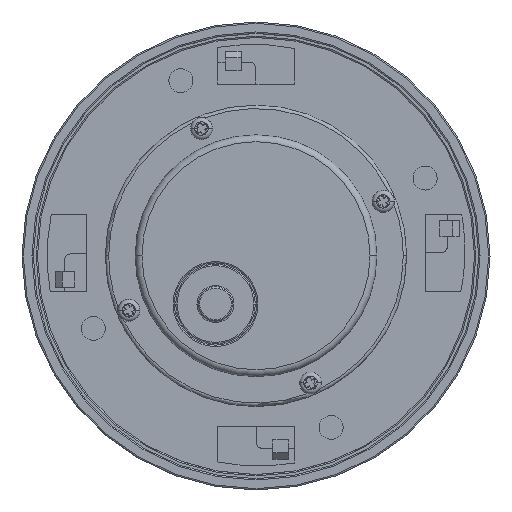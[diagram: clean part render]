
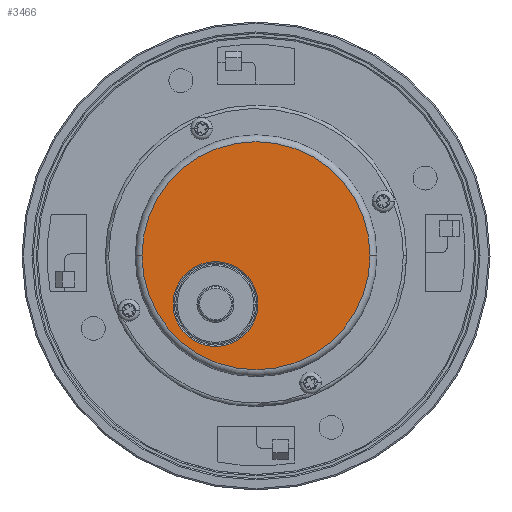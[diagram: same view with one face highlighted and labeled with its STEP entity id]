
A CAD part, top view. The second image highlights one B-rep face of the part: STEP entity #3466.
In plain terms, the highlighted planar face has unit normal (0, 0, 1).
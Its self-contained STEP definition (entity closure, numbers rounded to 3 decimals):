
#1461 = DIRECTION ( 'NONE',  ( 1., 0., 0. ) ) ;
#1462 = DIRECTION ( 'NONE',  ( 0., 0., 1. ) ) ;
#1463 = CARTESIAN_POINT ( 'NONE',  ( 0., 0., 27.3 ) ) ;
#1464 = AXIS2_PLACEMENT_3D ( 'NONE', #1463, #1462, #1461 ) ;
#1465 = CIRCLE ( 'NONE', #1464, 16.65 ) ;
#1466 = DIRECTION ( 'NONE',  ( 1., 0., 0. ) ) ;
#1467 = DIRECTION ( 'NONE',  ( 0., 0., -1. ) ) ;
#1468 = CARTESIAN_POINT ( 'NONE',  ( -5.914, -7.048, 27.3 ) ) ;
#1469 = AXIS2_PLACEMENT_3D ( 'NONE', #1468, #1467, #1466 ) ;
#1470 = CIRCLE ( 'NONE', #1469, 6.2 ) ;
#1471 = DIRECTION ( 'NONE',  ( 1., 0., 0. ) ) ;
#1472 = DIRECTION ( 'NONE',  ( 0., 0., 1. ) ) ;
#1473 = CARTESIAN_POINT ( 'NONE',  ( 0., 0., 27.3 ) ) ;
#1474 = AXIS2_PLACEMENT_3D ( 'NONE', #1473, #1472, #1471 ) ;
#1475 = PLANE ( 'NONE',  #1474 ) ;
#1476 = FACE_OUTER_BOUND ( 'NONE', #3471, .T. ) ;
#1477 = FACE_BOUND ( 'NONE', #3467, .T. ) ;
#1548 = CARTESIAN_POINT ( 'NONE',  ( 0.286, -7.048, 27.3 ) ) ;
#1549 = CARTESIAN_POINT ( 'NONE',  ( -12.114, -7.048, 27.3 ) ) ;
#1550 = DIRECTION ( 'NONE',  ( 1., 0., 0. ) ) ;
#1551 = DIRECTION ( 'NONE',  ( 0., 0., -1. ) ) ;
#1552 = CARTESIAN_POINT ( 'NONE',  ( -5.914, -7.048, 27.3 ) ) ;
#1553 = AXIS2_PLACEMENT_3D ( 'NONE', #1552, #1551, #1550 ) ;
#1554 = CIRCLE ( 'NONE', #1553, 6.2 ) ;
#3348 = VERTEX_POINT ( 'NONE', #12840 ) ;
#3350 = EDGE_CURVE ( 'NONE', #3351, #3348, #12839, .T. ) ;
#3351 = VERTEX_POINT ( 'NONE', #12834 ) ;
#3466 = ADVANCED_FACE ( 'NONE', ( #1477, #1476 ), #1475, .T. ) ;
#3467 = EDGE_LOOP ( 'NONE', ( #3468, #3470 ) ) ;
#3468 = ORIENTED_EDGE ( 'NONE', *, *, #3469, .T. ) ;
#3469 = EDGE_CURVE ( 'NONE', #3508, #3507, #1470, .T. ) ;
#3470 = ORIENTED_EDGE ( 'NONE', *, *, #3506, .T. ) ;
#3471 = EDGE_LOOP ( 'NONE', ( #3472, #3473 ) ) ;
#3472 = ORIENTED_EDGE ( 'NONE', *, *, #3350, .T. ) ;
#3473 = ORIENTED_EDGE ( 'NONE', *, *, #3474, .T. ) ;
#3474 = EDGE_CURVE ( 'NONE', #3348, #3351, #1465, .T. ) ;
#3506 = EDGE_CURVE ( 'NONE', #3507, #3508, #1554, .T. ) ;
#3507 = VERTEX_POINT ( 'NONE', #1549 ) ;
#3508 = VERTEX_POINT ( 'NONE', #1548 ) ;
#12834 = CARTESIAN_POINT ( 'NONE',  ( 16.65, 0., 27.3 ) ) ;
#12835 = DIRECTION ( 'NONE',  ( 1., 0., 0. ) ) ;
#12836 = DIRECTION ( 'NONE',  ( 0., 0., 1. ) ) ;
#12837 = CARTESIAN_POINT ( 'NONE',  ( 0., 0., 27.3 ) ) ;
#12838 = AXIS2_PLACEMENT_3D ( 'NONE', #12837, #12836, #12835 ) ;
#12839 = CIRCLE ( 'NONE', #12838, 16.65 ) ;
#12840 = CARTESIAN_POINT ( 'NONE',  ( -16.65, 0., 27.3 ) ) ;
